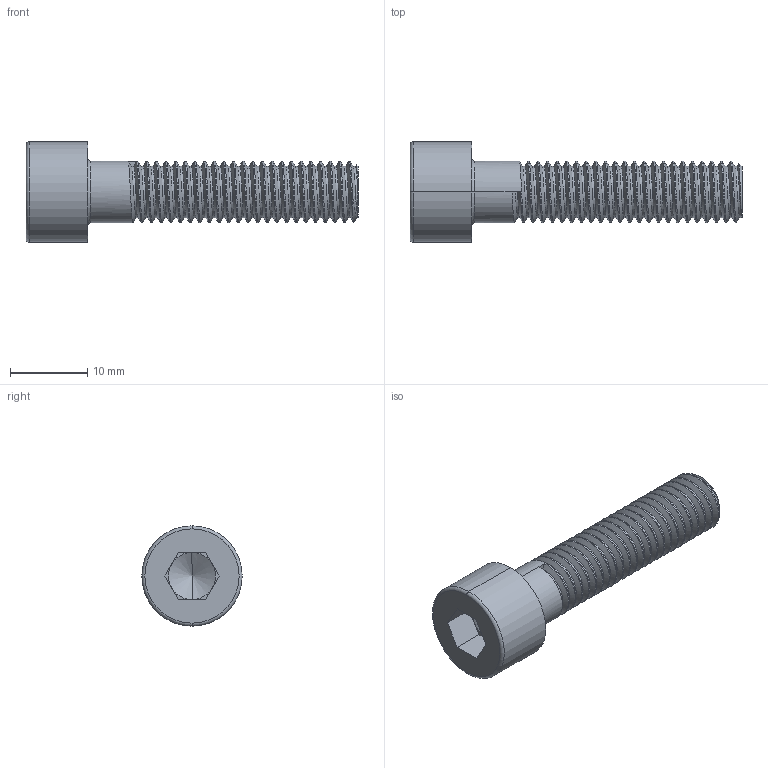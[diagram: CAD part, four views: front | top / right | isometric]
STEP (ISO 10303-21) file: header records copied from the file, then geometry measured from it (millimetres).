
FILE_DESCRIPTION (( 'STEP AP203' ), '1' );
FILE_NAME ('Ì8õ35_DIN912.STEP', '2025-11-19T11:40:08', ( '' ), ( '' ), 'SwSTEP 2.0', 'SolidWorks 2022', '' );
FILE_SCHEMA (( 'CONFIG_CONTROL_DESIGN' ));
Length unit declared in the file: millimetre
Products named in the file (1): М8х35_DIN912
Bounding box: 43 x 13 x 13 mm (x, y, z)
Volume: 2411.5 mm3; surface area: 1882.2 mm2
Topology: 1 solids, 1 shells, 77 faces, 208 edges, 133 vertices
Faces by surface type: cylinder 49, plane 16, cone 5, torus 4, bspline 3
Entity records: 6056 total; most frequent: CARTESIAN_POINT 4348, ORIENTED_EDGE 412, DIRECTION 276, EDGE_CURVE 206, VERTEX_POINT 133, AXIS2_PLACEMENT_3D 97, VECTOR 82, LINE 82
